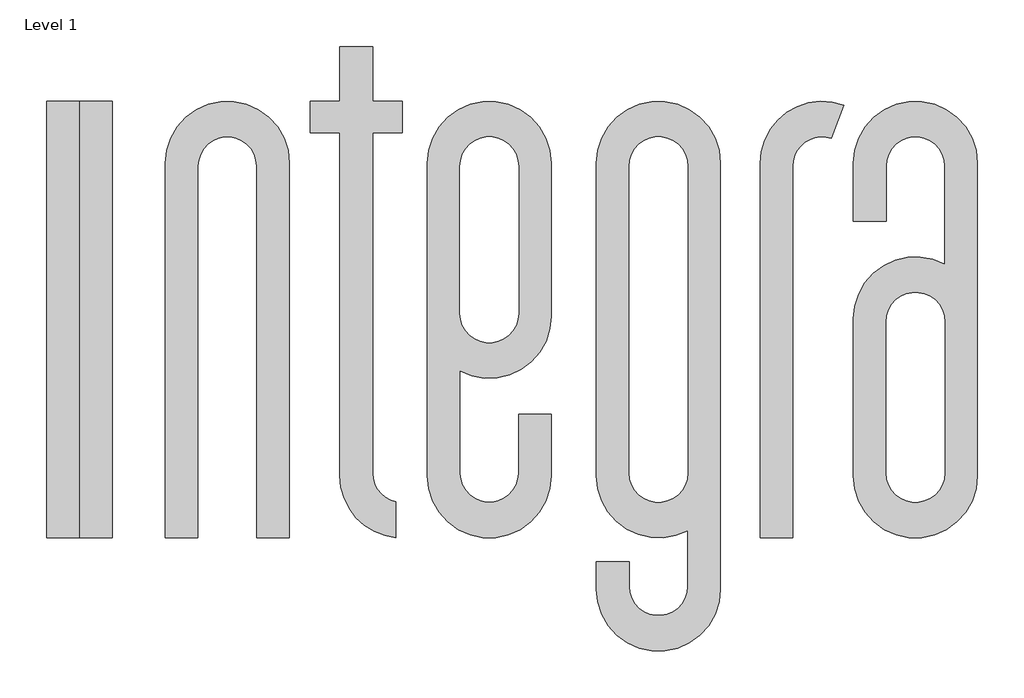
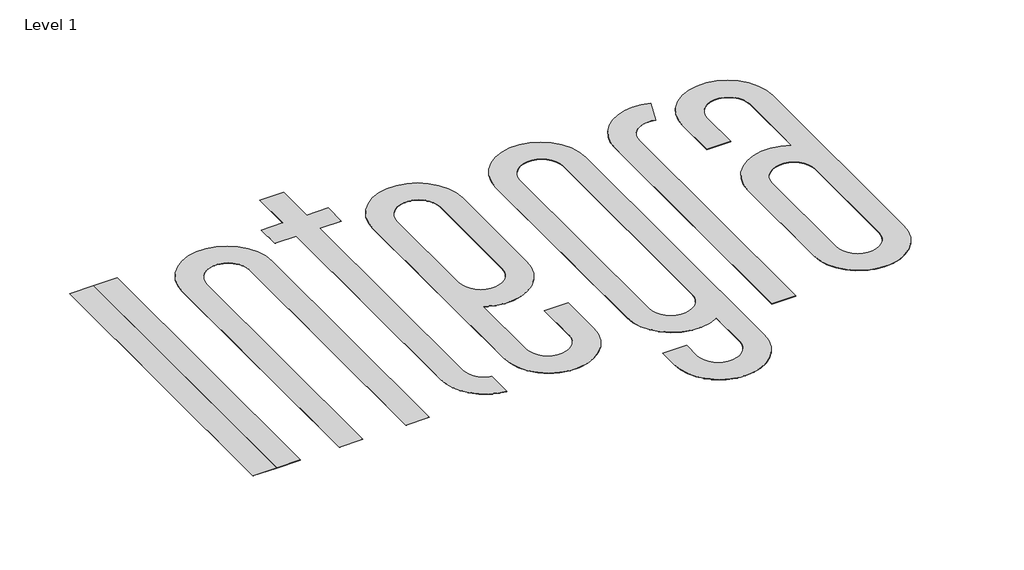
# One storey, incomplete: 1 proxy.
"""IFC4 building model written with IfcOpenShell, lengths in millimetres."""

from ifc_helpers import new_model, si_unit, origin, place, context, project, spatial, transform, mapped, element, save
from components import generic_models_e4622b55

model = new_model("IFC4")

# Units and contexts
model_context = context("Model", 3, world=origin())
ifc_project = project(units=[si_unit("LENGTHUNIT", "METRE", prefix="MILLI")], contexts=[model_context])

# Site, building, storey
site = spatial("IfcSite", under=ifc_project)
building = spatial("IfcBuilding", under=site)
storey = spatial("IfcBuildingStorey", under=building, Name="Level 1", Elevation=0.0)

# Proxy
placement = place(None, origin())
generic_models_shape = generic_models_e4622b55(model_context)
element("IfcBuildingElementProxy", 1, Name="Integra Logo : Integra Logo", ObjectType="Integra Logo : Integra Logo", at=placement, inside=storey, context=model_context, shape_type="MappedRepresentation", body=[
    mapped(generic_models_shape, transform((-1798.2248684, 9153.3798862, 0.0), x_axis=(1.0, 0.0, 0.0), y_axis=(0.0, 1.0, 0.0), z_axis=(0.0, 0.0, 1.0))),
])

save(model, "model.ifc")
